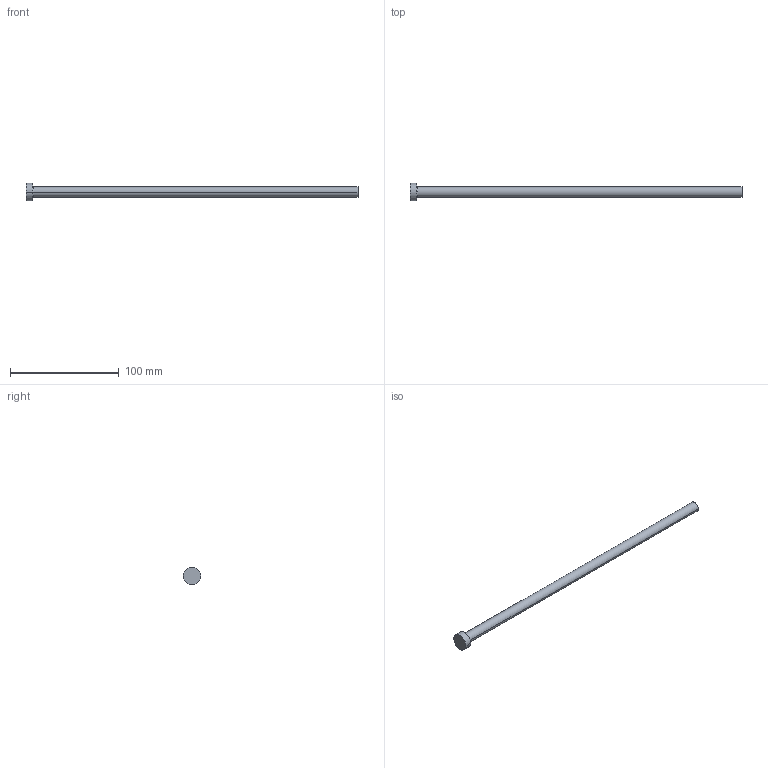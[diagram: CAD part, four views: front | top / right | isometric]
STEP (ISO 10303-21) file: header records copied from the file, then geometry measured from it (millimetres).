
FILE_DESCRIPTION (( 'STEP AP214' ), '1' );
FILE_NAME ('P25-12.STEP', '2020-03-12T09:56:16', ( '' ), ( '' ), 'SwSTEP 2.0', 'SolidWorks 2018', '' );
FILE_SCHEMA (( 'AUTOMOTIVE_DESIGN' ));
Length unit declared in the file: inch
Products named in the file (1): P25-12
Bounding box: 304.8 x 15.88 x 15.88 mm (x, y, z)
Volume: 22492.5 mm3; surface area: 9620.6 mm2
Topology: 1 solids, 1 shells, 13 faces, 24 edges, 14 vertices
Faces by surface type: cone 4, cylinder 4, plane 3, torus 2
Entity records: 366 total; most frequent: DIRECTION 68, CARTESIAN_POINT 52, ORIENTED_EDGE 48, AXIS2_PLACEMENT_3D 30, EDGE_CURVE 24, CIRCLE 16, EDGE_LOOP 14, VERTEX_POINT 14
